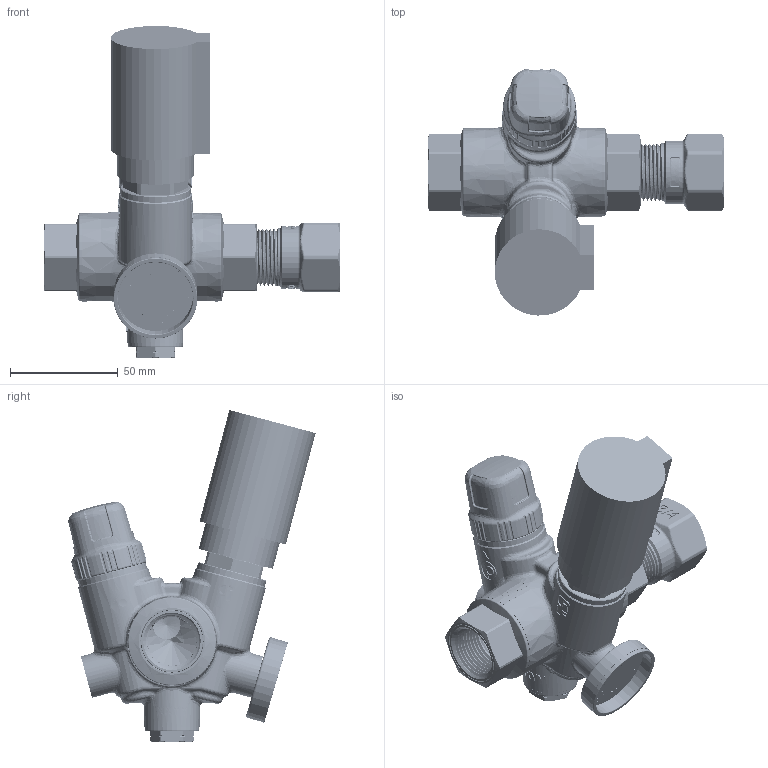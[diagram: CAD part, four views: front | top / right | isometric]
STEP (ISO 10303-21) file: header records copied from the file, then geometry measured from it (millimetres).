
FILE_DESCRIPTION(('Open CASCADE Model'),'2;1');
FILE_NAME('Open CASCADE Shape Model','2022-08-03T09:46:49',('Author'),( 'Open CASCADE'),'Open CASCADE STEP processor 7.3','Open CASCADE 7.3' ,'Unknown');
FILE_SCHEMA(('AUTOMOTIVE_DESIGN { 1 0 10303 214 1 1 1 1 }'));
Length unit declared in the file: millimetre
Products named in the file (25): Open CASCADE STEP translator 7.3 1; Open CASCADE STEP translator 7.3 1.1; Open CASCADE STEP translator 7.3 1.1.1; Open CASCADE STEP translator 7.3 1.1.2; Open CASCADE STEP translator 7.3 1.1.3; Open CASCADE STEP translator 7.3 1.1.4; Open CASCADE STEP translator 7.3 1.1.5; Open CASCADE STEP translator 7.3 1.1.6; Open CASCADE STEP translator 7.3 1.1.7; Open CASCADE STEP translator 7.3 1.1.8; Open CASCADE STEP translator 7.3 1.1.9; Open CASCADE STEP translator 7.3 1.1.10; Open CASCADE STEP translator 7.3 1.1.11; Open CASCADE STEP translator 7.3 1.1.12; Open CASCADE STEP translator 7.3 1.1.13; Open CASCADE STEP translator 7.3 1.1.14; Open CASCADE STEP translator 7.3 1.1.15; Open CASCADE STEP translator 7.3 1.1.16; Open CASCADE STEP translator 7.3 1.1.17; Open CASCADE STEP translator 7.3 1.1.18; Open CASCADE STEP translator 7.3 1.1.19; Open CASCADE STEP translator 7.3 1.2; Open CASCADE STEP translator 7.3 1.2.1; Open CASCADE STEP translator 7.3 1.2.2; Open CASCADE STEP translator 7.3 1.2.3
Assembly tree (24 placements, depth 3):
  Open CASCADE STEP translator 7.3 1
    Open CASCADE STEP translator 7.3 1.1
      Open CASCADE STEP translator 7.3 1.1.1
      Open CASCADE STEP translator 7.3 1.1.2
      Open CASCADE STEP translator 7.3 1.1.3
      Open CASCADE STEP translator 7.3 1.1.4
      Open CASCADE STEP translator 7.3 1.1.5
      Open CASCADE STEP translator 7.3 1.1.6
      Open CASCADE STEP translator 7.3 1.1.7
      Open CASCADE STEP translator 7.3 1.1.8
      Open CASCADE STEP translator 7.3 1.1.9
      Open CASCADE STEP translator 7.3 1.1.10
      Open CASCADE STEP translator 7.3 1.1.11
      Open CASCADE STEP translator 7.3 1.1.12
      Open CASCADE STEP translator 7.3 1.1.13
      Open CASCADE STEP translator 7.3 1.1.14
      Open CASCADE STEP translator 7.3 1.1.15
      Open CASCADE STEP translator 7.3 1.1.16
      Open CASCADE STEP translator 7.3 1.1.17
      Open CASCADE STEP translator 7.3 1.1.18
      Open CASCADE STEP translator 7.3 1.1.19
    Open CASCADE STEP translator 7.3 1.2
      Open CASCADE STEP translator 7.3 1.2.1
      Open CASCADE STEP translator 7.3 1.2.2
      Open CASCADE STEP translator 7.3 1.2.3
Bounding box: 138 x 114.98 x 154.4 mm (x, y, z)
Volume: 240518.6 mm3; surface area: 114659.2 mm2
Topology: 22 solids, 23 shells, 5328 faces, 13804 edges, 8722 vertices
Faces by surface type: extrusion 1469, plane 1262, cylinder 1068, bspline 606, cone 488, torus 319, sphere 64, revolution 52
Full cylindrical faces by diameter (mm): 35.672 x1
Entity records: 593787 total; most frequent: CARTESIAN_POINT 351971, DIRECTION 32589, ORIENTED_EDGE 27572, PCURVE 27572, DEFINITIONAL_REPRESENTATION 27572, B_SPLINE_CURVE_WITH_KNOTS 21000, VECTOR 18696, LINE 17227
